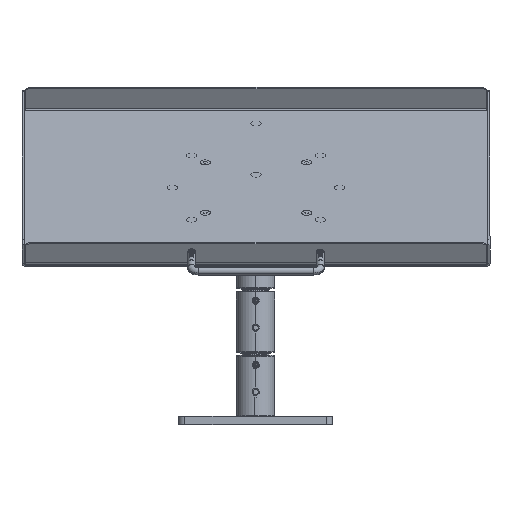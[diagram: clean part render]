
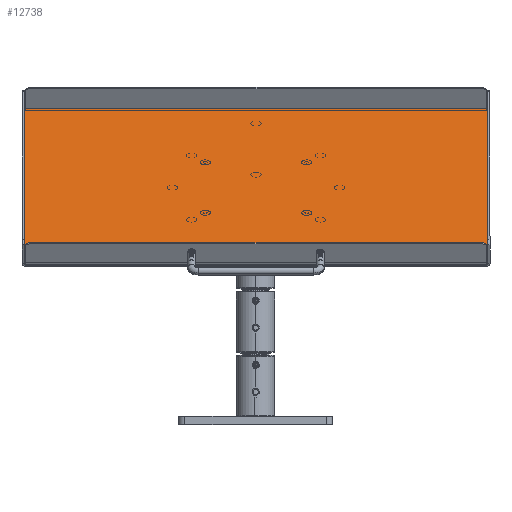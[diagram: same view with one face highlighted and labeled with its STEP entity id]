
A CAD part, top view. The second image highlights one B-rep face of the part: STEP entity #12738.
In plain terms, the highlighted planar face has unit normal (0, 0.866, 0.5) as drawn and (0, 1, 0) by its records, which use the part's own axes.
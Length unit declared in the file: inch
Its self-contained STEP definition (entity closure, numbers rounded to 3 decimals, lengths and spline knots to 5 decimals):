
#1964 = VECTOR ( 'NONE', #23341, 39.37008 ) ;
#2611 = VECTOR ( 'NONE', #11423, 39.37008 ) ;
#3565 = PLANE ( 'NONE',  #17064 ) ;
#3910 = VECTOR ( 'NONE', #22247, 39.37008 ) ;
#4573 = ORIENTED_EDGE ( 'NONE', *, *, #20466, .T. ) ;
#5434 = LINE ( 'NONE', #11808, #3910 ) ;
#8331 = CARTESIAN_POINT ( 'NONE',  ( -9., 0.125, -6. ) ) ;
#8631 = EDGE_CURVE ( 'NONE', #17506, #30820, #5434, .T. ) ;
#11002 = CARTESIAN_POINT ( 'NONE',  ( -9., 0.125, 6. ) ) ;
#11423 = DIRECTION ( 'NONE',  ( 0., 0., 1. ) ) ;
#11541 = CARTESIAN_POINT ( 'NONE',  ( -9., 0.125, -6. ) ) ;
#11778 = DIRECTION ( 'NONE',  ( 0., 0., -1. ) ) ;
#11808 = CARTESIAN_POINT ( 'NONE',  ( 9., 0.125, -6. ) ) ;
#12078 = ORIENTED_EDGE ( 'NONE', *, *, #8631, .T. ) ;
#12738 = ADVANCED_FACE ( 'NONE', ( #23450 ), #3565, .F. ) ;
#13298 = DIRECTION ( 'NONE',  ( 1., 0., 0. ) ) ;
#13346 = ORIENTED_EDGE ( 'NONE', *, *, #33214, .T. ) ;
#14698 = CARTESIAN_POINT ( 'NONE',  ( 0., 0.125, 0. ) ) ;
#15842 = VERTEX_POINT ( 'NONE', #21383 ) ;
#17064 = AXIS2_PLACEMENT_3D ( 'NONE', #14698, #17612, #11778 ) ;
#17506 = VERTEX_POINT ( 'NONE', #28778 ) ;
#17612 = DIRECTION ( 'NONE',  ( 0., -1., 0. ) ) ;
#19136 = LINE ( 'NONE', #8331, #2611 ) ;
#20466 = EDGE_CURVE ( 'NONE', #32324, #15842, #26945, .T. ) ;
#21383 = CARTESIAN_POINT ( 'NONE',  ( 9., 0.125, 6. ) ) ;
#22247 = DIRECTION ( 'NONE',  ( -1., 0., 0. ) ) ;
#23160 = CARTESIAN_POINT ( 'NONE',  ( 9., 0.125, -6. ) ) ;
#23241 = VECTOR ( 'NONE', #13298, 39.37008 ) ;
#23341 = DIRECTION ( 'NONE',  ( 0., 0., -1. ) ) ;
#23450 = FACE_OUTER_BOUND ( 'NONE', #29250, .T. ) ;
#26945 = LINE ( 'NONE', #32051, #23241 ) ;
#28778 = CARTESIAN_POINT ( 'NONE',  ( 9., 0.125, -6. ) ) ;
#29250 = EDGE_LOOP ( 'NONE', ( #13346, #4573, #30320, #12078 ) ) ;
#29483 = LINE ( 'NONE', #23160, #1964 ) ;
#30320 = ORIENTED_EDGE ( 'NONE', *, *, #35464, .T. ) ;
#30820 = VERTEX_POINT ( 'NONE', #11541 ) ;
#32051 = CARTESIAN_POINT ( 'NONE',  ( 9., 0.125, 6. ) ) ;
#32324 = VERTEX_POINT ( 'NONE', #11002 ) ;
#33214 = EDGE_CURVE ( 'NONE', #30820, #32324, #19136, .T. ) ;
#35464 = EDGE_CURVE ( 'NONE', #15842, #17506, #29483, .T. ) ;
